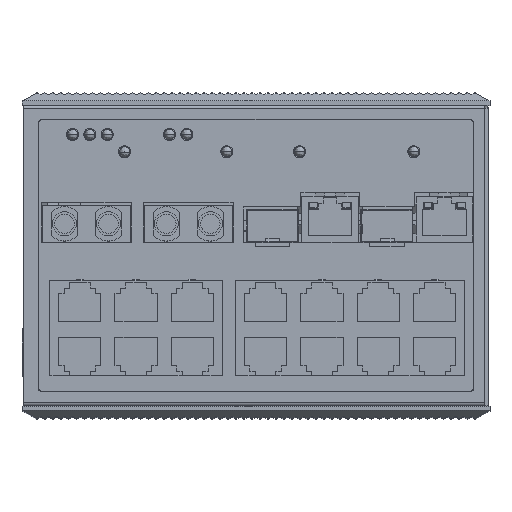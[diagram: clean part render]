
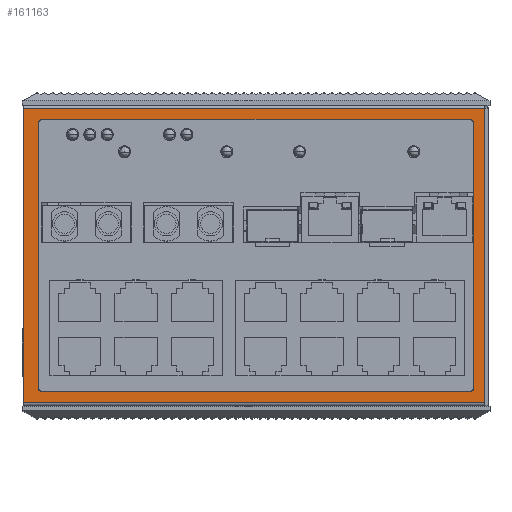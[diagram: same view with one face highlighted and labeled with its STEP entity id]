
A CAD part, top view. The second image highlights one B-rep face of the part: STEP entity #161163.
In plain terms, the highlighted planar face has unit normal (0, 0, 1).
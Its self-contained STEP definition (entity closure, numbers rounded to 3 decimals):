
#151792=DIRECTION('',(0.,-1.,0.));
#151793=VECTOR('',#151792,84.8);
#151794=CARTESIAN_POINT('',(66.7,84.85,70.86));
#151795=LINE('',#151794,#151793);
#151804=CARTESIAN_POINT('',(62.5,4.15,70.86));
#151805=DIRECTION('',(0.,0.,-1.));
#151806=DIRECTION('',(1.,0.,0.));
#151807=AXIS2_PLACEMENT_3D('',#151804,#151805,#151806);
#151809=DIRECTION('',(0.,-1.,0.));
#151810=VECTOR('',#151809,76.6);
#151811=CARTESIAN_POINT('',(63.5,80.75,70.86));
#151812=LINE('',#151811,#151810);
#151813=CARTESIAN_POINT('',(62.5,80.75,70.86));
#151814=DIRECTION('',(0.,0.,-1.));
#151815=DIRECTION('',(0.,1.,0.));
#151816=AXIS2_PLACEMENT_3D('',#151813,#151814,#151815);
#151818=DIRECTION('',(1.,0.,0.));
#151819=VECTOR('',#151818,123.6);
#151820=CARTESIAN_POINT('',(-61.1,81.75,70.86));
#151821=LINE('',#151820,#151819);
#151822=CARTESIAN_POINT('',(-61.1,80.75,70.86));
#151823=DIRECTION('',(0.,0.,-1.));
#151824=DIRECTION('',(-1.,0.,0.));
#151825=AXIS2_PLACEMENT_3D('',#151822,#151823,#151824);
#151827=DIRECTION('',(0.,1.,0.));
#151828=VECTOR('',#151827,76.6);
#151829=CARTESIAN_POINT('',(-62.1,4.15,70.86));
#151830=LINE('',#151829,#151828);
#151831=CARTESIAN_POINT('',(-61.1,4.15,70.86));
#151832=DIRECTION('',(0.,0.,-1.));
#151833=DIRECTION('',(0.,-1.,0.));
#151834=AXIS2_PLACEMENT_3D('',#151831,#151832,#151833);
#151836=DIRECTION('',(-1.,0.,0.));
#151837=VECTOR('',#151836,123.6);
#151838=CARTESIAN_POINT('',(62.5,3.15,70.86));
#151839=LINE('',#151838,#151837);
#151844=DIRECTION('',(1.,0.,0.));
#151845=VECTOR('',#151844,133.);
#151846=CARTESIAN_POINT('',(-66.3,84.85,70.86));
#151847=LINE('',#151846,#151845);
#155991=DIRECTION('',(0.,1.,0.));
#155992=VECTOR('',#155991,84.8);
#155993=CARTESIAN_POINT('',(-66.3,0.05,70.86));
#155994=LINE('',#155993,#155992);
#156029=DIRECTION('',(-1.,0.,0.));
#156030=VECTOR('',#156029,133.);
#156031=CARTESIAN_POINT('',(66.7,0.05,70.86));
#156032=LINE('',#156031,#156030);
#157259=CARTESIAN_POINT('',(-66.3,84.85,70.86));
#157260=VERTEX_POINT('',#157259);
#157261=CARTESIAN_POINT('',(66.7,84.85,70.86));
#157262=VERTEX_POINT('',#157261);
#157337=CARTESIAN_POINT('',(-66.3,0.05,70.86));
#157338=VERTEX_POINT('',#157337);
#157339=CARTESIAN_POINT('',(66.7,0.05,70.86));
#157340=VERTEX_POINT('',#157339);
#157395=CARTESIAN_POINT('',(63.5,4.15,70.86));
#157396=CARTESIAN_POINT('',(62.5,3.15,70.86));
#157397=VERTEX_POINT('',#157395);
#157398=VERTEX_POINT('',#157396);
#157429=CARTESIAN_POINT('',(-61.1,3.15,70.86));
#157430=VERTEX_POINT('',#157429);
#157431=CARTESIAN_POINT('',(63.5,80.75,70.86));
#157432=VERTEX_POINT('',#157431);
#157457=CARTESIAN_POINT('',(-62.1,4.15,70.86));
#157458=VERTEX_POINT('',#157457);
#157459=CARTESIAN_POINT('',(62.5,81.75,70.86));
#157460=VERTEX_POINT('',#157459);
#157509=CARTESIAN_POINT('',(-62.1,80.75,70.86));
#157510=VERTEX_POINT('',#157509);
#157513=CARTESIAN_POINT('',(-61.1,81.75,70.86));
#157514=VERTEX_POINT('',#157513);
#161131=CARTESIAN_POINT('',(66.7,84.85,70.86));
#161132=DIRECTION('',(0.,0.,-1.));
#161133=DIRECTION('',(1.,0.,0.));
#161134=AXIS2_PLACEMENT_3D('',#161131,#161132,#161133);
#161135=PLANE('',#161134);
#161137=ORIENTED_EDGE('',*,*,#161136,.T.);
#161138=ORIENTED_EDGE('',*,*,#161121,.T.);
#161140=ORIENTED_EDGE('',*,*,#161139,.T.);
#161142=ORIENTED_EDGE('',*,*,#161141,.T.);
#161143=EDGE_LOOP('',(#161137,#161138,#161140,#161142));
#161144=FACE_OUTER_BOUND('',#161143,.F.);
#161146=ORIENTED_EDGE('',*,*,#161145,.F.);
#161148=ORIENTED_EDGE('',*,*,#161147,.F.);
#161150=ORIENTED_EDGE('',*,*,#161149,.F.);
#161152=ORIENTED_EDGE('',*,*,#161151,.F.);
#161154=ORIENTED_EDGE('',*,*,#161153,.F.);
#161156=ORIENTED_EDGE('',*,*,#161155,.F.);
#161158=ORIENTED_EDGE('',*,*,#161157,.F.);
#161160=ORIENTED_EDGE('',*,*,#161159,.F.);
#161161=EDGE_LOOP('',(#161146,#161148,#161150,#161152,#161154,#161156,#161158,
#161160));
#161162=FACE_BOUND('',#161161,.F.);
#161163=ADVANCED_FACE('',(#161144,#161162),#161135,.F.);
#151808=CIRCLE('',#151807,1.);
#151817=CIRCLE('',#151816,1.);
#151826=CIRCLE('',#151825,1.);
#151835=CIRCLE('',#151834,1.);
#161121=EDGE_CURVE('',#157262,#157340,#151795,.T.);
#161136=EDGE_CURVE('',#157260,#157262,#151847,.T.);
#161139=EDGE_CURVE('',#157340,#157338,#156032,.T.);
#161141=EDGE_CURVE('',#157338,#157260,#155994,.T.);
#161145=EDGE_CURVE('',#157397,#157398,#151808,.T.);
#161147=EDGE_CURVE('',#157432,#157397,#151812,.T.);
#161149=EDGE_CURVE('',#157460,#157432,#151817,.T.);
#161151=EDGE_CURVE('',#157514,#157460,#151821,.T.);
#161153=EDGE_CURVE('',#157510,#157514,#151826,.T.);
#161155=EDGE_CURVE('',#157458,#157510,#151830,.T.);
#161157=EDGE_CURVE('',#157430,#157458,#151835,.T.);
#161159=EDGE_CURVE('',#157398,#157430,#151839,.T.);
